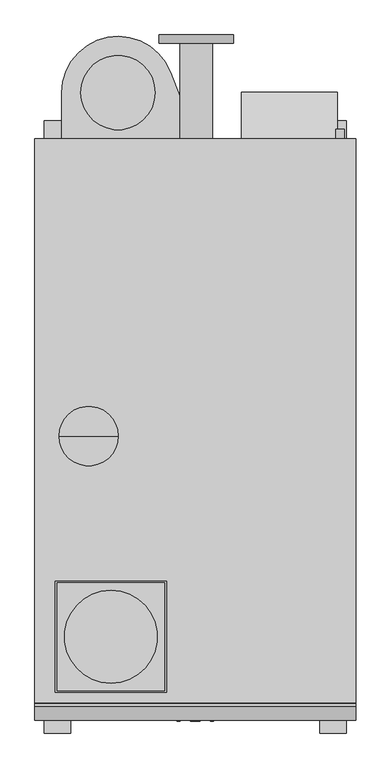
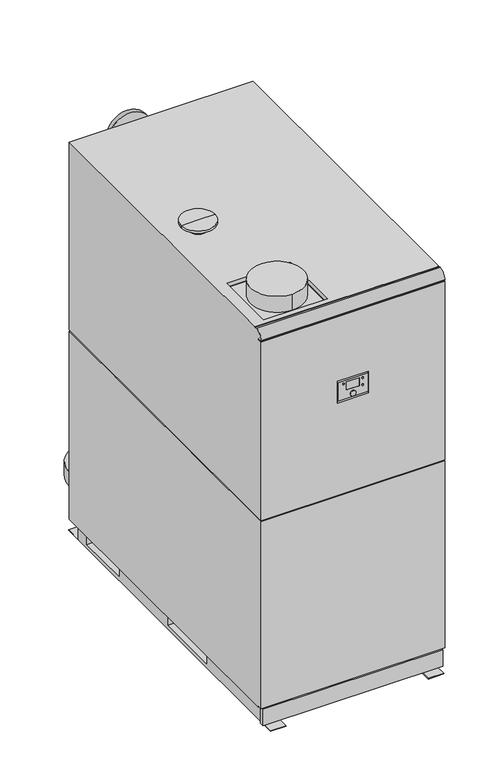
"""IFC4 building model written with IfcOpenShell, lengths in millimetres: unitary equipment geometry, AIC_Boiler_Nesta_Plus_280-840 : N 570 FS Chimney Type C."""

from ifc_helpers import new_model, si_unit, point, frame, frame_2d, origin, place, context, project, spatial, polyline, circle_curve, trimmed, segment, composite_curve, outline, extrude, faceted_brep, source, transform, mapped, element, save
from ifc_brep_helpers import plane_surface, cylinder_surface, advanced_brep


def unitary_equipment_64c63a85(model_context):
    return source(origin(), model_context, "Body", "SolidModel", [
        extrude(outline(composite_curve([segment(trimmed(circle_curve(frame_2d((100.0, 329.5)), 13.35), [point((100.0, 342.85))], [point((100.0, 316.15))], False, "CARTESIAN"), True, "CONTINUOUS"), segment(trimmed(circle_curve(frame_2d((100.0, 329.5)), 13.35), [point((100.0, 316.15))], [point((100.0, 342.85))], False, "CARTESIAN"), True, "CONTINUOUS")], self_intersect=False)), frame((0.0, 91.0, 0.0), z_axis=(0.0, 1.0, 0.0), x_axis=(0.0, 0.0, 1.0)), (0.0, 0.0, 1.0), 24.0),
        faceted_brep([(382.5, 0.0, 80.0), (382.5, 126.0, 80.0), (382.5, 126.0, 81.0), (382.5, 1.0, 81.0), (382.5, 1.0, 140.0), (382.5, 126.0, 140.0), (382.5, 126.0, 242.0), (382.5, 0.0, 310.0), (124.5, 0.0, 80.0), (124.5, 0.0, 310.0), (124.5, 126.0, 242.0), (124.5, 126.0, 80.0), (300.5, 126.0, 140.0), (300.5, 126.0, 81.0), (349.5, 1.0, 140.0), (349.5, 1.0, 81.0), (349.5, 91.0, 81.0), (349.5, 91.0, 140.0), (300.5, 91.0, 81.0), (300.5, 91.0, 140.0)], [[[0, 1, 2, 3, 4, 5, 6, 7]], [[8, 9, 10, 11]], [[1, 0, 8, 11]], [[11, 10, 6, 5, 12, 13, 2, 1]], [[7, 6, 10, 9]], [[0, 7, 9, 8]], [[14, 4, 3, 15]], [[14, 15, 16, 17]], [[15, 3, 2, 13, 18, 16]], [[4, 14, 17, 19, 12, 5]], [[19, 17, 16, 18]], [[19, 18, 13, 12]]]),
        extrude(outline(composite_curve([segment(trimmed(circle_curve(frame_2d((1520.0, 0.0)), 13.0), [point((1520.0, -13.0))], [point((1520.0, 13.0))], False, "CARTESIAN"), True, "CONTINUOUS"), segment(trimmed(circle_curve(frame_2d((1520.0, 0.0)), 13.0), [point((1520.0, 13.0))], [point((1520.0, -13.0))], False, "CARTESIAN"), True, "CONTINUOUS")], self_intersect=False)), frame((0.0, -1568.0, 0.0), z_axis=(0.0, 1.0, 0.0), x_axis=(0.0, 0.0, 1.0)), (0.0, 0.0, 1.0), 3.0),
        extrude(outline(composite_curve([segment(trimmed(circle_curve(frame_2d((1581.0, -45.0)), 4.0), [point((1581.0, -49.0))], [point((1581.0, -41.0))], False, "CARTESIAN"), True, "CONTINUOUS"), segment(trimmed(circle_curve(frame_2d((1581.0, -45.0)), 4.0), [point((1581.0, -41.0))], [point((1581.0, -49.0))], False, "CARTESIAN"), True, "CONTINUOUS")], self_intersect=False)), frame((0.0, -1567.0, 0.0), z_axis=(0.0, 1.0, 0.0), x_axis=(0.0, 0.0, 1.0)), (0.0, 0.0, 1.0), 2.0),
        extrude(outline(composite_curve([segment(trimmed(circle_curve(frame_2d((1581.0, 45.0)), 4.0), [point((1581.0, 41.0))], [point((1581.0, 49.0))], False, "CARTESIAN"), True, "CONTINUOUS"), segment(trimmed(circle_curve(frame_2d((1581.0, 45.0)), 4.0), [point((1581.0, 49.0))], [point((1581.0, 41.0))], False, "CARTESIAN"), True, "CONTINUOUS")], self_intersect=False)), frame((0.0, -1567.0, 0.0), z_axis=(0.0, 1.0, 0.0), x_axis=(0.0, 0.0, 1.0)), (0.0, 0.0, 1.0), 2.0),
        extrude(outline(composite_curve([segment(trimmed(circle_curve(frame_2d((1546.0, 45.0)), 4.0), [point((1546.0, 41.0))], [point((1546.0, 49.0))], False, "CARTESIAN"), True, "CONTINUOUS"), segment(trimmed(circle_curve(frame_2d((1546.0, 45.0)), 4.0), [point((1546.0, 49.0))], [point((1546.0, 41.0))], False, "CARTESIAN"), True, "CONTINUOUS")], self_intersect=False)), frame((0.0, -1567.0, 0.0), z_axis=(0.0, 1.0, 0.0), x_axis=(0.0, 0.0, 1.0)), (0.0, 0.0, 1.0), 2.0),
        faceted_brep([(71.0, -1555.0, 1596.0), (71.0, -1555.0, 1502.0), (-71.0, -1555.0, 1502.0), (-71.0, -1555.0, 1596.0), (71.0, -1565.0, 1596.0), (-71.0, -1565.0, 1596.0), (-71.0, -1565.0, 1502.0), (71.0, -1565.0, 1502.0), (-30.0, -1565.0, 1585.0), (30.0, -1565.0, 1585.0), (30.0, -1565.0, 1545.0), (-30.0, -1565.0, 1545.0), (30.0, -1564.0, 1585.0), (-30.0, -1564.0, 1585.0), (-30.0, -1564.0, 1545.0), (30.0, -1564.0, 1545.0)], [[[0, 1, 2, 3]], [[4, 5, 6, 7], [8, 9, 10, 11]], [[0, 3, 5, 4]], [[3, 2, 6, 5]], [[2, 1, 7, 6]], [[1, 0, 4, 7]], [[12, 13, 14, 15]], [[13, 12, 9, 8]], [[14, 13, 8, 11]], [[15, 14, 11, 10]], [[12, 15, 10, 9]]]),
        advanced_brep(
        [(-287.5, -800.0, 1970.0), (-324.5, -800.0, 1970.0), (-250.5, -800.0, 1970.0), (-207.5, -800.0, 2017.0), (-367.5, -800.0, 2017.0), (-287.5, -800.0, 2017.0), (-207.5, -800.0, 2006.0), (-367.5, -800.0, 2006.0), (-250.5, -800.0, 2006.0), (-324.5, -800.0, 2006.0)],
        [
            (0, 1),
            (1, 2, circle_curve(frame((-287.5, -800.0, 1970.0), z_axis=(0.0, 0.0, -1.0), x_axis=(-1.0, 0.0, 0.0)), 37.0)),
            (2, 0),
            (2, 1, circle_curve(frame((-287.5, -800.0, 1970.0), z_axis=(0.0, 0.0, -1.0), x_axis=(-1.0, 0.0, 0.0)), 37.0)),
            (3, 4, circle_curve(frame((-287.5, -800.0, 2017.0), z_axis=(0.0, 0.0, 1.0), x_axis=(-1.0, 0.0, 0.0)), 80.0)),
            (4, 5),
            (5, 3),
            (4, 3, circle_curve(frame((-287.5, -800.0, 2017.0), z_axis=(0.0, 0.0, 1.0), x_axis=(-1.0, 0.0, 0.0)), 80.0)),
            (6, 7, circle_curve(frame((-287.5, -800.0, 2006.0), z_axis=(0.0, 0.0, 1.0), x_axis=(-1.0, 0.0, 0.0)), 80.0)),
            (7, 4),
            (3, 6),
            (7, 6, circle_curve(frame((-287.5, -800.0, 2006.0), z_axis=(0.0, 0.0, 1.0), x_axis=(-1.0, 0.0, 0.0)), 80.0)),
            (8, 9, circle_curve(frame((-287.5, -800.0, 2006.0), z_axis=(0.0, 0.0, 1.0), x_axis=(-1.0, 0.0, 0.0)), 37.0)),
            (9, 7),
            (6, 8),
            (9, 8, circle_curve(frame((-287.5, -800.0, 2006.0), z_axis=(0.0, 0.0, 1.0), x_axis=(-1.0, 0.0, 0.0)), 37.0)),
            (1, 9),
            (8, 2),
        ],
        [
            plane_surface(frame((-287.5, -800.0, 1970.0), z_axis=(0.0, 0.0, -1.0), x_axis=(-1.0, 0.0, 0.0))),
            plane_surface(frame((-287.5, -800.0, 2017.0), z_axis=(0.0, 0.0, 1.0), x_axis=(-1.0, 0.0, 0.0))),
            cylinder_surface(frame((-287.5, -800.0, 1945.0), z_axis=(0.0, 0.0, -1.0), x_axis=(-1.0, 0.0, 0.0)), 80.0),
            plane_surface(frame((-287.5, -800.0, 2006.0), z_axis=(0.0, 0.0, -1.0), x_axis=(-1.0, 0.0, 0.0))),
            cylinder_surface(frame((-287.5, -800.0, 1945.0), z_axis=(0.0, 0.0, -1.0), x_axis=(-1.0, 0.0, 0.0)), 37.0),
        ],
        [
            (0, [[1, 2, 3]]),
            (0, [[-3, 4, -1]]),
            (1, [[5, 6, 7]]),
            (1, [[8, -7, -6]]),
            (2, [[9, 10, -5, 11]]),
            (2, [[12, -11, -8, -10]]),
            (3, [[13, 14, -9, 15]]),
            (3, [[16, -15, -12, -14]]),
            (4, [[-2, 17, -13, 18]]),
            (4, [[-4, -18, -16, -17]]),
        ],
    ),
        extrude(outline(composite_curve([segment(trimmed(circle_curve(frame_2d((1038.0, 390.5)), 11.6), [point((1038.0, 378.9))], [point((1038.0, 402.1))], False, "CARTESIAN"), True, "CONTINUOUS"), segment(trimmed(circle_curve(frame_2d((1038.0, 390.5)), 11.6), [point((1038.0, 402.1))], [point((1038.0, 378.9))], False, "CARTESIAN"), True, "CONTINUOUS")], self_intersect=False)), frame((0.0, 0.0, 0.0), z_axis=(0.0, 1.0, 0.0), x_axis=(0.0, 0.0, 1.0)), (0.0, 0.0, 1.0), 26.0),
        extrude(outline(composite_curve([segment(trimmed(circle_curve(frame_2d((-227.5, -1340.0)), 125.0), [point((-227.5, -1215.0))], [point((-227.5, -1465.0))], False, "CARTESIAN"), True, "CONTINUOUS"), segment(trimmed(circle_curve(frame_2d((-227.5, -1340.0)), 125.0), [point((-227.5, -1465.0))], [point((-227.5, -1215.0))], False, "CARTESIAN"), True, "CONTINUOUS")], self_intersect=False)), frame((0.0, 0.0, 1950.0), z_axis=(0.0, 0.0, 1.0), x_axis=(1.0, 0.0, 0.0)), (0.0, 0.0, 1.0), 80.0),
        extrude(outline(polyline([(-82.5, -1195.0), (-82.5, -1485.0), (-372.5, -1485.0), (-372.5, -1195.0), (-82.5, -1195.0)])), frame((0.0, 0.0, 1950.0), z_axis=(0.0, 0.0, 1.0), x_axis=(1.0, 0.0, 0.0)), (0.0, 0.0, 1.0), 1.0),
        advanced_brep(
        [(102.5, 258.0, 1706.0), (-97.5, 258.0, 1706.0), (46.5, 258.0, 1706.0), (-41.5, 258.0, 1706.0), (102.5, 280.0, 1706.0), (-97.5, 280.0, 1706.0), (-41.5, -10.0, 1706.0), (46.5, -10.0, 1706.0)],
        [
            (0, 1, circle_curve(frame((2.5, 258.0, 1706.0), z_axis=(0.0, -1.0, 0.0), x_axis=(-1.0, 0.0, 0.0)), 100.0)),
            (1, 0, circle_curve(frame((2.5, 258.0, 1706.0), z_axis=(0.0, -1.0, 0.0), x_axis=(-1.0, 0.0, 0.0)), 100.0)),
            (2, 3, circle_curve(frame((2.5, 258.0, 1706.0), z_axis=(0.0, 1.0, 0.0), x_axis=(1.0, 0.0, 0.0)), 44.0)),
            (3, 2, circle_curve(frame((2.5, 258.0, 1706.0), z_axis=(0.0, 1.0, 0.0), x_axis=(1.0, 0.0, 0.0)), 44.0)),
            (4, 5, circle_curve(frame((2.5, 280.0, 1706.0), z_axis=(0.0, 1.0, 0.0), x_axis=(-1.0, 0.0, 0.0)), 100.0)),
            (5, 4, circle_curve(frame((2.5, 280.0, 1706.0), z_axis=(0.0, 1.0, 0.0), x_axis=(-1.0, 0.0, 0.0)), 100.0)),
            (1, 5),
            (4, 0),
            (6, 7, circle_curve(frame((2.5, -10.0, 1706.0), z_axis=(0.0, -1.0, 0.0), x_axis=(1.0, 0.0, 0.0)), 44.0)),
            (7, 6, circle_curve(frame((2.5, -10.0, 1706.0), z_axis=(0.0, -1.0, 0.0), x_axis=(1.0, 0.0, 0.0)), 44.0)),
            (6, 3),
            (2, 7),
        ],
        [
            plane_surface(frame((-97.5, 258.0, 1706.0), z_axis=(0.0, -1.0, 0.0), x_axis=(0.0, 0.0, -1.0))),
            plane_surface(frame((-97.5, 280.0, 1706.0), z_axis=(0.0, 1.0, 0.0), x_axis=(0.0, 0.0, 1.0))),
            cylinder_surface(frame((2.5, 258.0, 1706.0), z_axis=(0.0, 1.0, 0.0), x_axis=(-1.0, 0.0, 0.0)), 100.0),
            plane_surface(frame((46.5, -10.0, 1706.0), z_axis=(0.0, -1.0, 0.0), x_axis=(0.0, 0.0, 1.0))),
            cylinder_surface(frame((2.5, 280.0, 1706.0), z_axis=(0.0, -1.0, 0.0), x_axis=(1.0, 0.0, 0.0)), 44.0),
        ],
        [
            (0, [[1, 2], [3, 4]]),
            (1, [[5, 6]]),
            (2, [[-2, 7, -5, 8]]),
            (2, [[-1, -8, -6, -7]]),
            (3, [[9, 10]]),
            (4, [[-9, 11, -3, 12]]),
            (4, [[-10, -12, -4, -11]]),
        ],
    ),
        advanced_brep(
        [(-41.5, 0.0, 335.0), (46.5, 0.0, 335.0), (102.5, 280.0, 335.0), (-97.5, 280.0, 335.0), (-41.5, 258.0, 335.0), (46.5, 258.0, 335.0), (102.5, 258.0, 335.0), (-97.5, 258.0, 335.0)],
        [
            (0, 1, circle_curve(frame((2.5, 0.0, 335.0), z_axis=(0.0, -1.0, 0.0), x_axis=(1.0, 0.0, 0.0)), 44.0)),
            (1, 0, circle_curve(frame((2.5, 0.0, 335.0), z_axis=(0.0, -1.0, 0.0), x_axis=(1.0, 0.0, 0.0)), 44.0)),
            (2, 3, circle_curve(frame((2.5, 280.0, 335.0), z_axis=(0.0, 1.0, 0.0), x_axis=(-1.0, 0.0, 0.0)), 100.0)),
            (3, 2, circle_curve(frame((2.5, 280.0, 335.0), z_axis=(0.0, 1.0, 0.0), x_axis=(-1.0, 0.0, 0.0)), 100.0)),
            (0, 4),
            (4, 5, circle_curve(frame((2.5, 258.0, 335.0), z_axis=(0.0, -1.0, 0.0), x_axis=(1.0, 0.0, 0.0)), 44.0)),
            (5, 1),
            (5, 4, circle_curve(frame((2.5, 258.0, 335.0), z_axis=(0.0, -1.0, 0.0), x_axis=(1.0, 0.0, 0.0)), 44.0)),
            (6, 7, circle_curve(frame((2.5, 258.0, 335.0), z_axis=(0.0, -1.0, 0.0), x_axis=(-1.0, 0.0, 0.0)), 100.0)),
            (7, 6, circle_curve(frame((2.5, 258.0, 335.0), z_axis=(0.0, -1.0, 0.0), x_axis=(-1.0, 0.0, 0.0)), 100.0)),
            (7, 3),
            (2, 6),
        ],
        [
            plane_surface(frame((46.5, 0.0, 335.0), z_axis=(0.0, -1.0, 0.0), x_axis=(0.0, 0.0, 1.0))),
            plane_surface(frame((46.5, 280.0, 335.0), z_axis=(0.0, 1.0, 0.0), x_axis=(0.0, 0.0, -1.0))),
            cylinder_surface(frame((2.5, 280.0, 335.0), z_axis=(0.0, -1.0, 0.0), x_axis=(1.0, 0.0, 0.0)), 44.0),
            plane_surface(frame((-97.5, 258.0, 335.0), z_axis=(0.0, -1.0, 0.0), x_axis=(0.0, 0.0, -1.0))),
            cylinder_surface(frame((2.5, 258.0, 335.0), z_axis=(0.0, 1.0, 0.0), x_axis=(-1.0, 0.0, 0.0)), 100.0),
        ],
        [
            (0, [[1, 2]]),
            (1, [[3, 4]]),
            (2, [[-1, 5, 6, 7]]),
            (2, [[-2, -7, 8, -5]]),
            (3, [[9, 10], [-6, -8]]),
            (4, [[-10, 11, -3, 12]]),
            (4, [[-9, -12, -4, -11]]),
        ],
    ),
        extrude(outline(composite_curve([segment(trimmed(circle_curve(frame_2d((-208.5, 125.0)), 100.0), [point((-108.5, 125.0))], [point((-308.5, 125.0))], False, "CARTESIAN"), True, "CONTINUOUS"), segment(trimmed(circle_curve(frame_2d((-208.5, 125.0)), 100.0), [point((-308.5, 125.0))], [point((-108.5, 125.0))], False, "CARTESIAN"), True, "CONTINUOUS")], self_intersect=False)), frame((0.0, 0.0, 228.0), z_axis=(0.0, 0.0, 1.0), x_axis=(1.0, 0.0, 0.0)), (0.0, 0.0, 1.0), 97.0),
        extrude(outline(composite_curve([segment(trimmed(circle_curve(frame_2d((-208.5, 125.0)), 151.4514382), [point((-359.9514382, 125.0))], [point((-67.3169163, 179.8167402))], False, "CARTESIAN"), True, "CONTINUOUS"), segment(polyline([(-67.3169163, 179.8167402), (2.5, 0.0), (-359.9514382, 0.0), (-359.9514382, 125.0)]), True, "CONTINUOUS")], self_intersect=False)), frame((0.0, 0.0, 157.0), z_axis=(0.0, 0.0, 1.0), x_axis=(1.0, 0.0, 0.0)), (0.0, 0.0, 1.0), 71.0),
        advanced_brep(
        [(432.5, 0.0, 1970.0), (-432.5, 0.0, 1970.0), (-432.5, -1517.0, 1970.0), (432.5, -1517.0, 1970.0), (-377.5, -1190.0, 1970.0), (-77.5, -1190.0, 1970.0), (-77.5, -1490.0, 1970.0), (-377.5, -1490.0, 1970.0), (-432.5, -1526.6616502, 1970.0), (432.5, -1526.6616502, 1970.0), (432.5, -1521.0, 1970.0), (-432.5, -1521.0, 1970.0), (36.0, -1545.0, 0.0), (-36.0, -1545.0, 0.0), (-36.0, -31.0, 0.0), (36.0, -31.0, 0.0), (-407.5, 49.0, 0.0), (-335.5, 49.0, 0.0), (-335.5, -1599.0, 0.0), (-407.5, -1599.0, 0.0), (335.5, 49.0, 0.0), (407.5, 49.0, 0.0), (407.5, -1599.0, 0.0), (335.5, -1599.0, 0.0), (432.5, 0.0, 1036.0), (432.5, -1517.0, 1968.0), (432.5, -1521.0, 1968.0), (432.5, -1565.0, 1931.6616502), (432.5, -1565.0, 1929.0), (432.5, -1545.0, 1929.0), (432.5, -1545.0, 1923.0), (432.5, -1565.0, 1923.0), (432.5, -1565.0, 1036.0), (432.5, 0.0, 1030.0), (432.5, -1565.0, 1030.0), (432.5, -1565.0, 100.0), (432.5, -1545.0, 100.0), (432.5, -1545.0, 95.0), (432.5, 0.0, 95.0), (423.5, 0.0, 1036.0), (423.5, 0.0, 1030.0), (-432.5, 0.0, 95.0), (-432.5, 0.0, 1030.0), (-423.5, 0.0, 1030.0), (-423.5, 0.0, 1036.0), (-432.5, 0.0, 1036.0), (-432.5, -1565.0, 1036.0), (-432.5, -1565.0, 1923.0), (-432.5, -1545.0, 1923.0), (-432.5, -1545.0, 1929.0), (-432.5, -1565.0, 1929.0), (-432.5, -1565.0, 1931.6616502), (-432.5, -1521.0, 1968.0), (-432.5, -1517.0, 1968.0), (-432.5, -1565.0, 1030.0), (-432.5, -1545.0, 95.0), (-432.5, -1545.0, 100.0), (-432.5, -1565.0, 100.0), (-73.0, -1565.0, 1603.0), (73.0, -1565.0, 1603.0), (73.0, -1565.0, 1495.0), (-73.0, -1565.0, 1495.0), (423.5, -1565.0, 12.0), (423.5, -1565.0, 95.0), (-423.5, -1565.0, 95.0), (-423.5, -1565.0, 12.0), (-423.5, -1545.0, 1036.0), (423.5, -1545.0, 1036.0), (423.5, -1545.0, 1030.0), (-423.5, -1545.0, 1030.0), (36.0, -1545.0, 12.0), (-36.0, -1545.0, 12.0), (-423.5, -1545.0, 95.0), (-407.5, -1545.0, 95.0), (-335.5, -1545.0, 95.0), (-36.0, -1545.0, 95.0), (36.0, -1545.0, 95.0), (335.5, -1545.0, 95.0), (407.5, -1545.0, 95.0), (423.5, -1545.0, 95.0), (-335.5, -1545.0, 12.0), (-407.5, -1545.0, 12.0), (-407.5, -1545.0, 3.0), (-335.5, -1545.0, 3.0), (407.5, -1545.0, 12.0), (335.5, -1545.0, 12.0), (335.5, -1545.0, 3.0), (407.5, -1545.0, 3.0), (423.5, -1545.0, 12.0), (-423.5, -1545.0, 12.0), (-36.0, -1545.0, 95.0), (-335.5, -1545.0, 95.0), (-335.5, -31.0, 95.0), (-407.5, -31.0, 95.0), (-407.5, -1545.0, 95.0), (407.5, -1545.0, 95.0), (407.5, -31.0, 95.0), (335.5, -31.0, 95.0), (335.5, -1545.0, 95.0), (36.0, -1545.0, 95.0), (36.0, -31.0, 95.0), (-36.0, -31.0, 95.0), (-407.5, -31.0, 3.0), (-407.5, 49.0, 3.0), (-407.5, -1599.0, 3.0), (-407.5, -762.0, 80.0), (-407.5, -1077.0, 80.0), (-407.5, -1077.0, 20.0), (-407.5, -762.0, 20.0), (-407.5, -100.0, 80.0), (-407.5, -362.0, 80.0), (-407.5, -362.0, 20.0), (-407.5, -100.0, 20.0), (407.5, -1599.0, 3.0), (407.5, 49.0, 3.0), (407.5, -31.0, 3.0), (407.5, -1077.0, 80.0), (407.5, -762.0, 80.0), (407.5, -762.0, 20.0), (407.5, -1077.0, 20.0), (407.5, -362.0, 80.0), (407.5, -100.0, 80.0), (407.5, -100.0, 20.0), (407.5, -362.0, 20.0), (-335.5, -1599.0, 3.0), (-335.5, 49.0, 3.0), (-335.5, -31.0, 3.0), (-335.5, -1077.0, 80.0), (-335.5, -762.0, 80.0), (-335.5, -762.0, 20.0), (-335.5, -1077.0, 20.0), (-335.5, -362.0, 80.0), (-335.5, -100.0, 80.0), (-335.5, -100.0, 20.0), (-335.5, -362.0, 20.0), (-36.0, -762.0, 80.0), (-36.0, -1077.0, 80.0), (-36.0, -1077.0, 20.0), (-36.0, -762.0, 20.0), (-36.0, -100.0, 80.0), (-36.0, -362.0, 80.0), (-36.0, -362.0, 20.0), (-36.0, -100.0, 20.0), (36.0, -1077.0, 80.0), (36.0, -762.0, 80.0), (36.0, -762.0, 20.0), (36.0, -1077.0, 20.0), (36.0, -362.0, 80.0), (36.0, -100.0, 80.0), (36.0, -100.0, 20.0), (36.0, -362.0, 20.0), (335.5, -31.0, 3.0), (335.5, 49.0, 3.0), (335.5, -1599.0, 3.0), (335.5, -762.0, 80.0), (335.5, -1077.0, 80.0), (335.5, -1077.0, 20.0), (335.5, -762.0, 20.0), (335.5, -100.0, 80.0), (335.5, -362.0, 80.0), (335.5, -362.0, 20.0), (335.5, -100.0, 20.0), (73.0, -1545.0, 1603.0), (-73.0, -1545.0, 1603.0), (-73.0, -1545.0, 1495.0), (73.0, -1545.0, 1495.0), (-77.5, -1190.0, 1950.0), (-377.5, -1190.0, 1950.0), (-377.5, -1490.0, 1950.0), (-77.5, -1490.0, 1950.0)],
        [
            (0, 1),
            (1, 2),
            (2, 3),
            (3, 0),
            (4, 5),
            (5, 6),
            (6, 7),
            (7, 4),
            (8, 9),
            (9, 10),
            (10, 11),
            (11, 8),
            (12, 13),
            (13, 14),
            (14, 15),
            (15, 12),
            (16, 17),
            (17, 18),
            (18, 19),
            (19, 16),
            (20, 21),
            (21, 22),
            (22, 23),
            (23, 20),
            (24, 0),
            (3, 25),
            (25, 26),
            (26, 10),
            (9, 27, circle_curve(frame((432.5, -1526.6616502, 1931.6616502), z_axis=(1.0, 0.0, 0.0), x_axis=(0.0, 1.0, 0.0)), 38.3383498)),
            (27, 28),
            (28, 29),
            (29, 30),
            (30, 31),
            (31, 32),
            (32, 24),
            (33, 34),
            (34, 35),
            (35, 36),
            (36, 37),
            (37, 38),
            (38, 33),
            (24, 39),
            (39, 40),
            (40, 33),
            (38, 41),
            (41, 42),
            (42, 43),
            (43, 44),
            (44, 45),
            (45, 1),
            (45, 46),
            (46, 47),
            (47, 48),
            (48, 49),
            (49, 50),
            (50, 51),
            (51, 8, circle_curve(frame((-432.5, -1526.6616502, 1931.6616502), z_axis=(-1.0, 0.0, 0.0), x_axis=(0.0, 1.0, 0.0)), 38.3383498)),
            (11, 52),
            (52, 53),
            (53, 2),
            (54, 42),
            (41, 55),
            (55, 56),
            (56, 57),
            (57, 54),
            (46, 32),
            (31, 47),
            (58, 59),
            (59, 60),
            (60, 61),
            (61, 58),
            (34, 54),
            (57, 35),
            (27, 51),
            (50, 28),
            (62, 63),
            (63, 64),
            (64, 65),
            (65, 62),
            (44, 66),
            (66, 67),
            (67, 39),
            (40, 68),
            (68, 69),
            (69, 43),
            (67, 68),
            (66, 69),
            (30, 48),
            (29, 49),
            (26, 52),
            (25, 53),
            (12, 70),
            (70, 71),
            (71, 13),
            (36, 56),
            (55, 72),
            (72, 73),
            (73, 74),
            (74, 75),
            (75, 76),
            (76, 77),
            (77, 78),
            (78, 79),
            (79, 37),
            (80, 81),
            (81, 82),
            (82, 83),
            (83, 80),
            (84, 85),
            (85, 86),
            (86, 87),
            (87, 84),
            (62, 88),
            (88, 79),
            (79, 63),
            (65, 89),
            (89, 81),
            (80, 71),
            (70, 85),
            (84, 88),
            (64, 72),
            (72, 89),
            (90, 91),
            (91, 92),
            (92, 93),
            (93, 94),
            (94, 72),
            (79, 95),
            (95, 96),
            (96, 97),
            (97, 98),
            (98, 99),
            (99, 100),
            (100, 101),
            (101, 90),
            (94, 81),
            (93, 102),
            (102, 103),
            (103, 16),
            (19, 104),
            (104, 82),
            (105, 106),
            (106, 107),
            (107, 108),
            (108, 105),
            (109, 110),
            (110, 111),
            (111, 112),
            (112, 109),
            (95, 84),
            (87, 113),
            (113, 22),
            (21, 114),
            (114, 115),
            (115, 96),
            (116, 117),
            (117, 118),
            (118, 119),
            (119, 116),
            (120, 121),
            (121, 122),
            (122, 123),
            (123, 120),
            (91, 80),
            (83, 124),
            (124, 18),
            (17, 125),
            (125, 126),
            (126, 92),
            (127, 128),
            (128, 129),
            (129, 130),
            (130, 127),
            (131, 132),
            (132, 133),
            (133, 134),
            (134, 131),
            (90, 71),
            (101, 14),
            (135, 136),
            (136, 137),
            (137, 138),
            (138, 135),
            (139, 140),
            (140, 141),
            (141, 142),
            (142, 139),
            (99, 70),
            (15, 100),
            (143, 144),
            (144, 145),
            (145, 146),
            (146, 143),
            (147, 148),
            (148, 149),
            (149, 150),
            (150, 147),
            (98, 85),
            (97, 151),
            (151, 152),
            (152, 20),
            (23, 153),
            (153, 86),
            (154, 155),
            (155, 156),
            (156, 157),
            (157, 154),
            (158, 159),
            (159, 160),
            (160, 161),
            (161, 158),
            (126, 102),
            (115, 151),
            (105, 128),
            (127, 106),
            (135, 144),
            (143, 136),
            (154, 117),
            (116, 155),
            (130, 107),
            (146, 137),
            (119, 156),
            (129, 108),
            (145, 138),
            (118, 157),
            (109, 132),
            (131, 110),
            (139, 148),
            (147, 140),
            (158, 121),
            (120, 159),
            (134, 111),
            (150, 141),
            (123, 160),
            (133, 112),
            (149, 142),
            (122, 161),
            (114, 152),
            (125, 103),
            (104, 124),
            (153, 113),
            (162, 163),
            (163, 164),
            (164, 165),
            (165, 162),
            (162, 59),
            (58, 163),
            (61, 164),
            (60, 165),
            (166, 167),
            (167, 168),
            (168, 169),
            (169, 166),
            (166, 5),
            (4, 167),
            (7, 168),
            (6, 169),
        ],
        [
            plane_surface(frame((432.5, -1565.0, 1970.0), z_axis=(0.0, 0.0, 1.0), x_axis=(0.0, 1.0, 0.0))),
            plane_surface(frame((432.5, -1565.0, 0.0), z_axis=(0.0, 0.0, -1.0), x_axis=(0.0, -1.0, 0.0))),
            plane_surface(frame((432.5, -1565.0, 1970.0), z_axis=(1.0, 0.0, 0.0), x_axis=(0.0, 0.0, -1.0))),
            plane_surface(frame((432.5, 0.0, 1970.0), z_axis=(0.0, 1.0, 0.0), x_axis=(0.0, 0.0, -1.0))),
            plane_surface(frame((-432.5, 0.0, 1970.0), z_axis=(-1.0, 0.0, 0.0), x_axis=(0.0, 0.0, -1.0))),
            plane_surface(frame((-432.5, -1565.0, 1970.0), z_axis=(0.0, -1.0, 0.0), x_axis=(0.0, 0.0, -1.0))),
            plane_surface(frame((-432.5, 0.0, 1036.0), z_axis=(0.0, 0.0, -1.0), x_axis=(-1.0, 0.0, 0.0))),
            plane_surface(frame((-432.5, 0.0, 1030.0), z_axis=(0.0, 0.0, 1.0), x_axis=(1.0, 0.0, 0.0))),
            plane_surface(frame((423.5, 0.0, 1036.0), z_axis=(1.0, 0.0, 0.0), x_axis=(0.0, 0.0, -1.0))),
            plane_surface(frame((423.5, -1545.0, 1036.0), z_axis=(0.0, -1.0, 0.0), x_axis=(0.0, 0.0, -1.0))),
            plane_surface(frame((-423.5, -1545.0, 1036.0), z_axis=(-1.0, 0.0, 0.0), x_axis=(0.0, 0.0, -1.0))),
            cylinder_surface(frame((-432.5, -1526.6616502, 1931.6616502), z_axis=(-1.0, 0.0, 0.0), x_axis=(0.0, 1.0, 0.0)), 38.3383498),
            plane_surface(frame((432.5, -1565.0, 1923.0), z_axis=(0.0, 0.0, 1.0), x_axis=(-1.0, 0.0, 0.0))),
            plane_surface(frame((432.5, -1545.0, 1923.0), z_axis=(0.0, -1.0, 0.0), x_axis=(-1.0, 0.0, 0.0))),
            plane_surface(frame((432.5, -1545.0, 1929.0), z_axis=(0.0, 0.0, -1.0), x_axis=(-1.0, 0.0, 0.0))),
            plane_surface(frame((432.5, -1521.0, 1970.0), z_axis=(0.0, 1.0, 0.0), x_axis=(-1.0, 0.0, 0.0))),
            plane_surface(frame((432.5, -1521.0, 1968.0), z_axis=(0.0, 0.0, 1.0), x_axis=(-1.0, 0.0, 0.0))),
            plane_surface(frame((432.5, -1517.0, 1968.0), z_axis=(0.0, -1.0, 0.0), x_axis=(-1.0, 0.0, 0.0))),
            plane_surface(frame((423.5, -1545.0, 95.0), z_axis=(0.0, -1.0, 0.0), x_axis=(0.0, 0.0, 1.0))),
            plane_surface(frame((423.5, -1565.0, 95.0), z_axis=(1.0, 0.0, 0.0), x_axis=(0.0, 1.0, 0.0))),
            plane_surface(frame((423.5, -1565.0, 12.0), z_axis=(0.0, 0.0, -1.0), x_axis=(0.0, 1.0, 0.0))),
            plane_surface(frame((-423.5, -1565.0, 12.0), z_axis=(-1.0, 0.0, 0.0), x_axis=(0.0, 1.0, 0.0))),
            plane_surface(frame((-423.5, -1565.0, 95.0), z_axis=(0.0, 0.0, 1.0), x_axis=(0.0, 1.0, 0.0))),
            plane_surface(frame((432.5, -1565.0, 100.0), z_axis=(0.0, 0.0, -1.0), x_axis=(0.0, 1.0, 0.0))),
            plane_surface(frame((-432.5, 0.0, 95.0), z_axis=(0.0, 0.0, -1.0), x_axis=(-1.0, 0.0, 0.0))),
            plane_surface(frame((-432.5, -1545.0, 95.0), z_axis=(0.0, 1.0, 0.0), x_axis=(0.0, 0.0, -1.0))),
            plane_surface(frame((-407.5, -1545.0, 95.0), z_axis=(-1.0, 0.0, 0.0), x_axis=(0.0, 0.0, -1.0))),
            plane_surface(frame((407.5, 0.0, 95.0), z_axis=(1.0, 0.0, 0.0), x_axis=(0.0, 0.0, -1.0))),
            plane_surface(frame((407.5, -1545.0, 95.0), z_axis=(0.0, 1.0, 0.0), x_axis=(0.0, 0.0, -1.0))),
            plane_surface(frame((-335.5, 0.0, 95.0), z_axis=(1.0, 0.0, 0.0), x_axis=(0.0, 0.0, -1.0))),
            plane_surface(frame((-335.5, -1545.0, 95.0), z_axis=(0.0, 1.0, 0.0), x_axis=(0.0, 0.0, -1.0))),
            plane_surface(frame((-36.0, -1545.0, 95.0), z_axis=(-1.0, 0.0, 0.0), x_axis=(0.0, 0.0, -1.0))),
            plane_surface(frame((36.0, 0.0, 95.0), z_axis=(1.0, 0.0, 0.0), x_axis=(0.0, 0.0, -1.0))),
            plane_surface(frame((36.0, -1545.0, 95.0), z_axis=(0.0, 1.0, 0.0), x_axis=(0.0, 0.0, -1.0))),
            plane_surface(frame((335.5, -1545.0, 95.0), z_axis=(-1.0, 0.0, 0.0), x_axis=(0.0, 0.0, -1.0))),
            plane_surface(frame((-432.5, -31.0, 95.0), z_axis=(0.0, 1.0, 0.0), x_axis=(0.0, 0.0, -1.0))),
            plane_surface(frame((407.5, -762.0, 80.0), z_axis=(0.0, 0.0, -1.0), x_axis=(-1.0, 0.0, 0.0))),
            plane_surface(frame((407.5, -1077.0, 80.0), z_axis=(0.0, 1.0, 0.0), x_axis=(-1.0, 0.0, 0.0))),
            plane_surface(frame((407.5, -1077.0, 20.0), z_axis=(0.0, 0.0, 1.0), x_axis=(-1.0, 0.0, 0.0))),
            plane_surface(frame((407.5, -762.0, 20.0), z_axis=(0.0, -1.0, 0.0), x_axis=(-1.0, 0.0, 0.0))),
            plane_surface(frame((407.5, -100.0, 80.0), z_axis=(0.0, 0.0, -1.0), x_axis=(-1.0, 0.0, 0.0))),
            plane_surface(frame((407.5, -362.0, 80.0), z_axis=(0.0, 1.0, 0.0), x_axis=(-1.0, 0.0, 0.0))),
            plane_surface(frame((407.5, -362.0, 20.0), z_axis=(0.0, 0.0, 1.0), x_axis=(-1.0, 0.0, 0.0))),
            plane_surface(frame((407.5, -100.0, 20.0), z_axis=(0.0, -1.0, 0.0), x_axis=(-1.0, 0.0, 0.0))),
            plane_surface(frame((-407.5, 49.0, 3.0), z_axis=(0.0, 0.0, 1.0), x_axis=(-1.0, 0.0, 0.0))),
            plane_surface(frame((-335.5, 49.0, 3.0), z_axis=(0.0, 1.0, 0.0), x_axis=(0.0, 0.0, -1.0))),
            plane_surface(frame((407.5, 49.0, 3.0), z_axis=(0.0, 1.0, 0.0), x_axis=(0.0, 0.0, -1.0))),
            plane_surface(frame((-407.5, -1599.0, 3.0), z_axis=(0.0, -1.0, 0.0), x_axis=(0.0, 0.0, -1.0))),
            plane_surface(frame((335.5, -1599.0, 3.0), z_axis=(0.0, -1.0, 0.0), x_axis=(0.0, 0.0, -1.0))),
            plane_surface(frame((-73.0, -1545.0, 1603.0), z_axis=(0.0, -1.0, 0.0), x_axis=(1.0, 0.0, 0.0))),
            plane_surface(frame((73.0, -1565.0, 1603.0), z_axis=(0.0, 0.0, -1.0), x_axis=(0.0, 1.0, 0.0))),
            plane_surface(frame((-73.0, -1565.0, 1603.0), z_axis=(1.0, 0.0, 0.0), x_axis=(0.0, 1.0, 0.0))),
            plane_surface(frame((-73.0, -1565.0, 1495.0), z_axis=(0.0, 0.0, 1.0), x_axis=(0.0, 1.0, 0.0))),
            plane_surface(frame((73.0, -1565.0, 1495.0), z_axis=(-1.0, 0.0, 0.0), x_axis=(0.0, 1.0, 0.0))),
            plane_surface(frame((-377.5, -1190.0, 1950.0), z_axis=(0.0, 0.0, 1.0), x_axis=(1.0, 0.0, 0.0))),
            plane_surface(frame((-77.5, -1190.0, 1970.0), z_axis=(0.0, -1.0, 0.0), x_axis=(0.0, 0.0, -1.0))),
            plane_surface(frame((-377.5, -1190.0, 1970.0), z_axis=(1.0, 0.0, 0.0), x_axis=(0.0, 0.0, -1.0))),
            plane_surface(frame((-377.5, -1490.0, 1970.0), z_axis=(0.0, 1.0, 0.0), x_axis=(0.0, 0.0, -1.0))),
            plane_surface(frame((-77.5, -1490.0, 1970.0), z_axis=(-1.0, 0.0, 0.0), x_axis=(0.0, 0.0, -1.0))),
        ],
        [
            (0, [[1, 2, 3, 4], [5, 6, 7, 8]]),
            (0, [[9, 10, 11, 12]]),
            (1, [[13, 14, 15, 16]]),
            (1, [[17, 18, 19, 20]]),
            (1, [[21, 22, 23, 24]]),
            (2, [[25, -4, 26, 27, 28, -10, 29, 30, 31, 32, 33, 34, 35]]),
            (2, [[36, 37, 38, 39, 40, 41]]),
            (3, [[-1, -25, 42, 43, 44, -41, 45, 46, 47, 48, 49, 50]]),
            (4, [[-50, 51, 52, 53, 54, 55, 56, 57, -12, 58, 59, 60, -2]]),
            (4, [[61, -46, 62, 63, 64, 65]]),
            (5, [[66, -34, 67, -52], [68, 69, 70, 71]]),
            (5, [[72, -65, 73, -37]]),
            (5, [[74, -56, 75, -30]]),
            (5, [[76, 77, 78, 79]]),
            (6, [[80, 81, 82, -42, -35, -66, -51, -49]]),
            (7, [[83, 84, 85, -47, -61, -72, -36, -44]]),
            (8, [[-82, 86, -83, -43]]),
            (9, [[-81, 87, -84, -86]]),
            (10, [[-80, -48, -85, -87]]),
            (11, [[-9, -57, -74, -29]]),
            (12, [[88, -53, -67, -33]]),
            (13, [[-88, -32, 89, -54]]),
            (14, [[-89, -31, -75, -55]]),
            (15, [[90, -58, -11, -28]]),
            (16, [[-90, -27, 91, -59]]),
            (17, [[-91, -26, -3, -60]]),
            (18, [[-13, 92, 93, 94]]),
            (18, [[95, -63, 96, 97, 98, 99, 100, 101, 102, 103, 104, -39]]),
            (18, [[105, 106, 107, 108]]),
            (18, [[109, 110, 111, 112]]),
            (19, [[113, 114, 115, -76]]),
            (20, [[-113, -79, 116, 117, -105, 118, -93, 119, -109, 120]]),
            (21, [[-116, -78, 121, 122]]),
            (22, [[-115, -103, -102, -101, -100, -99, -98, -97, -121, -77]]),
            (23, [[-95, -38, -73, -64]]),
            (24, [[123, 124, 125, 126, 127, -96, -62, -45, -40, -104, 128, 129, 130, 131, 132, 133, 134, 135]]),
            (25, [[136, -117, -122, -127]]),
            (26, [[-136, -126, 137, 138, 139, -20, 140, 141, -106], [142, 143, 144, 145], [146, 147, 148, 149]]),
            (27, [[150, -112, 151, 152, -22, 153, 154, 155, -129], [156, 157, 158, 159], [160, 161, 162, 163]]),
            (28, [[-128, -114, -120, -150]]),
            (29, [[164, -108, 165, 166, -18, 167, 168, 169, -124], [170, 171, 172, 173], [174, 175, 176, 177]]),
            (30, [[-123, 178, -118, -164]]),
            (31, [[-178, -135, 179, -14, -94], [180, 181, 182, 183], [184, 185, 186, 187]]),
            (32, [[188, -92, -16, 189, -133], [190, 191, 192, 193], [194, 195, 196, 197]]),
            (33, [[-132, 198, -119, -188]]),
            (34, [[-198, -131, 199, 200, 201, -24, 202, 203, -110], [204, 205, 206, 207], [208, 209, 210, 211]]),
            (35, [[-125, -169, 212, -137]]),
            (35, [[-130, -155, 213, -199]]),
            (35, [[-134, -189, -15, -179]]),
            (36, [[214, -170, 215, -142]]),
            (36, [[216, -190, 217, -180]]),
            (36, [[218, -156, 219, -204]]),
            (37, [[-215, -173, 220, -143]]),
            (37, [[-217, -193, 221, -181]]),
            (37, [[-219, -159, 222, -205]]),
            (38, [[-220, -172, 223, -144]]),
            (38, [[-221, -192, 224, -182]]),
            (38, [[-222, -158, 225, -206]]),
            (39, [[-214, -145, -223, -171]]),
            (39, [[-216, -183, -224, -191]]),
            (39, [[-218, -207, -225, -157]]),
            (40, [[226, -174, 227, -146]]),
            (40, [[228, -194, 229, -184]]),
            (40, [[230, -160, 231, -208]]),
            (41, [[-227, -177, 232, -147]]),
            (41, [[-229, -197, 233, -185]]),
            (41, [[-231, -163, 234, -209]]),
            (42, [[-232, -176, 235, -148]]),
            (42, [[-233, -196, 236, -186]]),
            (42, [[-234, -162, 237, -210]]),
            (43, [[-226, -149, -235, -175]]),
            (43, [[-228, -187, -236, -195]]),
            (43, [[-230, -211, -237, -161]]),
            (44, [[-200, -213, -154, 238]]),
            (44, [[239, -138, -212, -168]]),
            (44, [[240, -165, -107, -141]]),
            (44, [[241, -151, -111, -203]]),
            (45, [[-239, -167, -17, -139]]),
            (46, [[-238, -153, -21, -201]]),
            (47, [[-240, -140, -19, -166]]),
            (48, [[-241, -202, -23, -152]]),
            (49, [[242, 243, 244, 245]]),
            (50, [[-242, 246, -68, 247]]),
            (51, [[-243, -247, -71, 248]]),
            (52, [[-244, -248, -70, 249]]),
            (53, [[-245, -249, -69, -246]]),
            (54, [[250, 251, 252, 253]]),
            (55, [[-250, 254, -5, 255]]),
            (56, [[-251, -255, -8, 256]]),
            (57, [[-252, -256, -7, 257]]),
            (58, [[-253, -257, -6, -254]]),
        ],
    ),
    ])


if __name__ == "__main__":
    model = new_model("IFC4")
    model_context = context("Model", 3, world=origin())
    ifc_project = project(units=[si_unit("LENGTHUNIT", "METRE", prefix="MILLI")], contexts=[model_context])
    site = spatial("IfcSite", under=ifc_project)
    building = spatial("IfcBuilding", under=site)
    placement = place(None, origin())
    unitary_equipment_shape = unitary_equipment_64c63a85(model_context)
    element("IfcUnitaryEquipment", 1, ObjectType="AIC_Boiler_Nesta_Plus_280-840 : N 570 FS Chimney Type C", at=placement, inside=building, context=model_context, shape_type="MappedRepresentation", body=[
        mapped(unitary_equipment_shape, transform((0.0, 0.0, 0.0), x_axis=(1.0, 0.0, 0.0), y_axis=(0.0, 1.0, 0.0), z_axis=(0.0, 0.0, 1.0))),
    ])
    save(model, "model.ifc")
